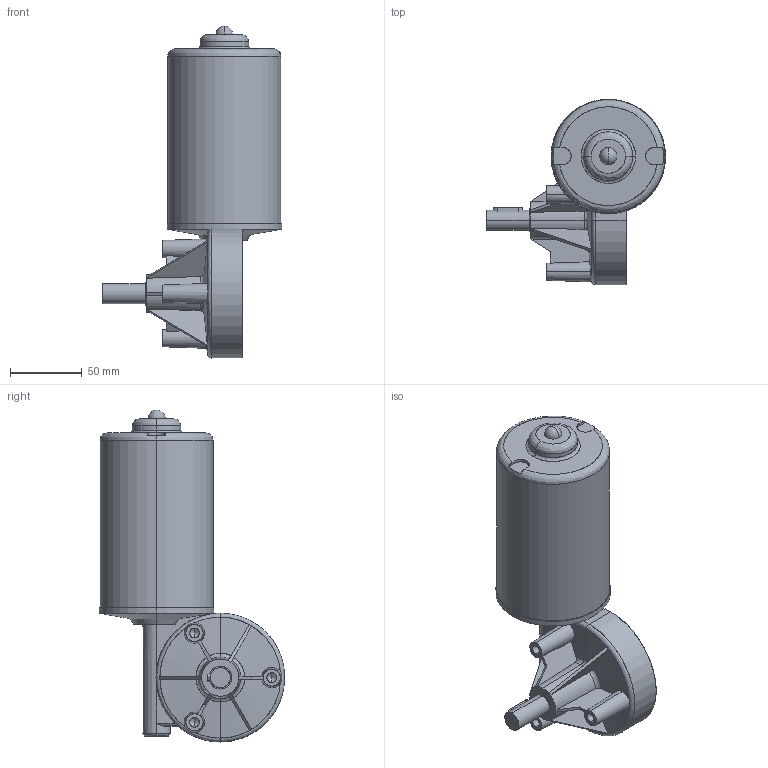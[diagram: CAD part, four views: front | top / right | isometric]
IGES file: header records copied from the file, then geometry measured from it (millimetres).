
Start section: SolidWorks IGES file using analytic representation for surfaces
Global section: file name: \\Uranus\R&D\plans\CATALOGUES\Topstock_Piece_IGES\258.IGS; native system: SolidWorks 2008; preprocessor: SolidWorks 2008; author: JUL; date: 090326.093016; units: millimetre
Bounding box: 125.2 x 129.5 x 232 mm (x, y, z)
Surface area: 80291.1 mm2 (no closed solid volume)
Topology: 0 solids, 0 shells, 134 faces, 1965 edges, 1958 vertices
Faces by surface type: bspline 76, revolution 58
